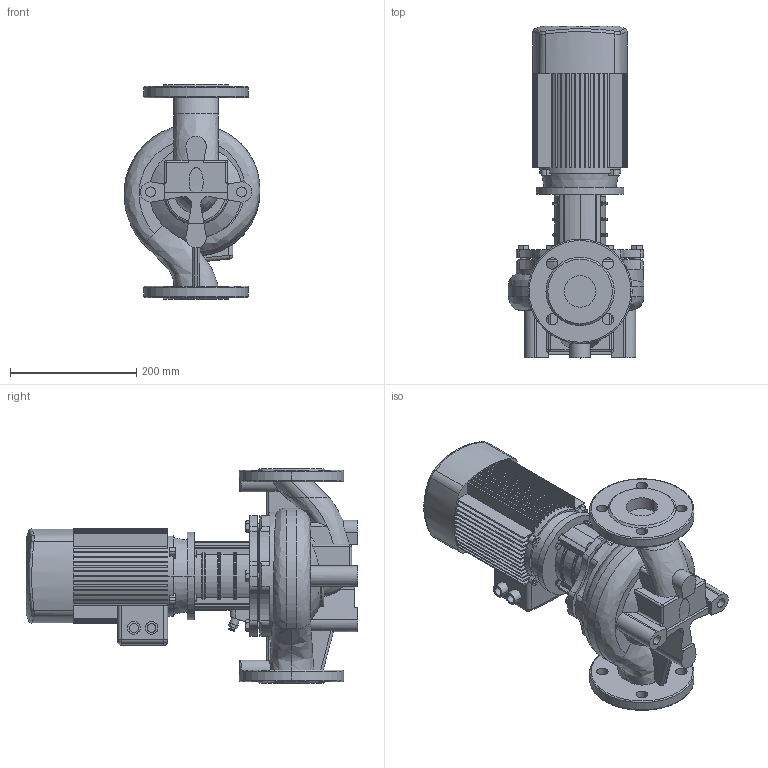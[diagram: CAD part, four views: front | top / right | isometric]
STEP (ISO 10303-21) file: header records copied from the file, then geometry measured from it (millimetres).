
FILE_DESCRIPTION(/* description */ (''),/* implementation_level */ '2;1');
FILE_NAME(/* name */ 'TD50-12-2安装尺寸图.stp',/* time_stamp */ '2026-09-07T15:11:54+08:00',/* author */ (''),/* organization */ (''),/* preprocessor_version */ 'ST-DEVELOPER v16.7',/* originating_system */ 'SIEMENS PLM Software NX 1847',/* authorisation */ '');
FILE_SCHEMA (('AP203_CONFIGURATION_CONTROLLED_3D_DESIGN_OF_MECHANICAL_PARTS_AND_ASSEMBLIES_MIM_LF { 1 0 10303 403 2 1 2}'));
Length unit declared in the file: millimetre
Products named in the file (1): Admi55F8EAC4z0qg
Bounding box: 215.09 x 525 x 340 mm (x, y, z)
Volume: 10389382.8 mm3; surface area: 752023.8 mm2
Topology: 1 solids, 7 shells, 1000 faces, 2608 edges, 1626 vertices
Faces by surface type: plane 455, cylinder 319, torus 83, cone 75, bspline 38, sphere 30
Full cylindrical faces by diameter (mm): 8 x1, 8.88 x4, 9.732 x6, 10 x1, 12.9 x1, 14.63 x6
Entity records: 35683 total; most frequent: CARTESIAN_POINT 11325, DIRECTION 5147, ORIENTED_EDGE 5076, EDGE_CURVE 2538, AXIS2_PLACEMENT_3D 1994, VERTEX_POINT 1615, LINE 1159, VECTOR 1159
